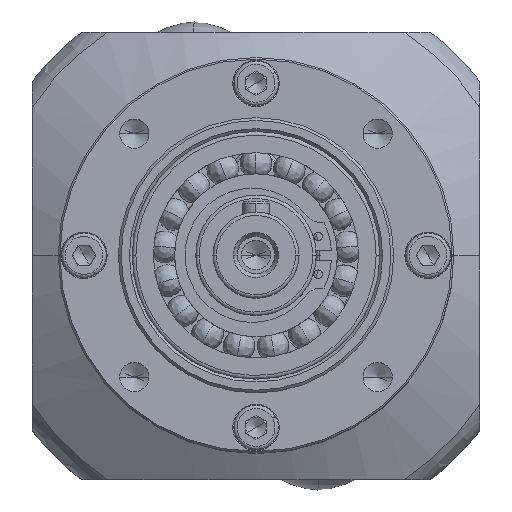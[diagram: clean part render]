
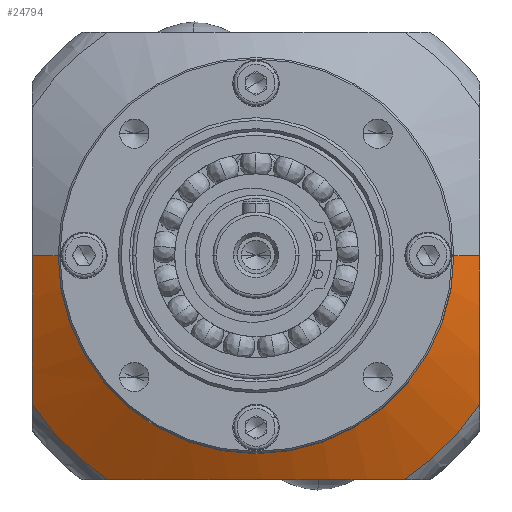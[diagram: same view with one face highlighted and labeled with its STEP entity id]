
A CAD part, top view. The second image highlights one B-rep face of the part: STEP entity #24794.
In plain terms, the highlighted conical face has half-angle 60 degrees and reference radius 57.5 mm.
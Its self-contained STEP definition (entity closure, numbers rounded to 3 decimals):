
#359 = CARTESIAN_POINT ( 'NONE',  ( 65., -3.71, 21.33 ) ) ;
#566 = ORIENTED_EDGE ( 'NONE', *, *, #20542, .T. ) ;
#686 = EDGE_CURVE ( 'NONE', #21934, #17545, #27739, .T. ) ;
#1526 = DIRECTION ( 'NONE',  ( 0., 0., -1. ) ) ;
#1555 = CIRCLE ( 'NONE', #16951, 57.5 ) ;
#2215 = VECTOR ( 'NONE', #15687, 1000. ) ;
#2669 = CARTESIAN_POINT ( 'NONE',  ( -65., 0., 21.33 ) ) ;
#2902 = LINE ( 'NONE', #4683, #2215 ) ;
#3723 = LINE ( 'NONE', #4104, #9686 ) ;
#4104 = CARTESIAN_POINT ( 'NONE',  ( -57.5, 0., 17. ) ) ;
#4253 = DIRECTION ( 'NONE',  ( -0.866, 0., 0.5 ) ) ;
#4683 = CARTESIAN_POINT ( 'NONE',  ( 57.5, 0., 17. ) ) ;
#5756 = CARTESIAN_POINT ( 'NONE',  ( 0., 0., 28.864 ) ) ;
#5785 = DIRECTION ( 'NONE',  ( 0., 0., 1. ) ) ;
#5788 = DIRECTION ( 'NONE',  ( 1., 0., 0. ) ) ;
#5909 = AXIS2_PLACEMENT_3D ( 'NONE', #25460, #27829, #9328 ) ;
#6301 = EDGE_CURVE ( 'NONE', #23832, #19343, #24675, .T. ) ;
#6421 = EDGE_CURVE ( 'NONE', #23832, #29212, #14859, .T. ) ;
#6669 = EDGE_CURVE ( 'NONE', #17545, #29212, #13495, .T. ) ;
#7549 = CARTESIAN_POINT ( 'NONE',  ( -57.5, 0., 17. ) ) ;
#7568 = ORIENTED_EDGE ( 'NONE', *, *, #6301, .F. ) ;
#7761 = CARTESIAN_POINT ( 'NONE',  ( 43.206, -65., 28.864 ) ) ;
#7790 = CARTESIAN_POINT ( 'NONE',  ( 36.174, -65., 26.617 ) ) ;
#7819 = ORIENTED_EDGE ( 'NONE', *, *, #6421, .T. ) ;
#7830 = CARTESIAN_POINT ( 'NONE',  ( 29.077, -65., 24.725 ) ) ;
#7933 = CONICAL_SURFACE ( 'NONE', #5909, 57.5, 1.047 ) ;
#7935 = CARTESIAN_POINT ( 'NONE',  ( 18.277, -65., 22.736 ) ) ;
#7959 = CARTESIAN_POINT ( 'NONE',  ( 14.652, -65., 22.215 ) ) ;
#8036 = CARTESIAN_POINT ( 'NONE',  ( 9.167, -65., 21.687 ) ) ;
#8041 = CARTESIAN_POINT ( 'NONE',  ( 7.332, -65., 21.553 ) ) ;
#8071 = CARTESIAN_POINT ( 'NONE',  ( -43.206, -65., 28.864 ) ) ;
#8102 = CARTESIAN_POINT ( 'NONE',  ( 4.566, -65., 21.419 ) ) ;
#8196 = CARTESIAN_POINT ( 'NONE',  ( 3.642, -65., 21.385 ) ) ;
#8228 = CARTESIAN_POINT ( 'NONE',  ( 1.79, -65., 21.341 ) ) ;
#8234 = CARTESIAN_POINT ( 'NONE',  ( 0.862, -65., 21.33 ) ) ;
#8259 = CARTESIAN_POINT ( 'NONE',  ( -3.763, -65., 21.332 ) ) ;
#8291 = CARTESIAN_POINT ( 'NONE',  ( -7.432, -65., 21.518 ) ) ;
#8332 = CARTESIAN_POINT ( 'NONE',  ( -14.715, -65., 22.224 ) ) ;
#8363 = CARTESIAN_POINT ( 'NONE',  ( -18.328, -65., 22.744 ) ) ;
#8391 = CARTESIAN_POINT ( 'NONE',  ( -29.097, -65., 24.731 ) ) ;
#8428 = CARTESIAN_POINT ( 'NONE',  ( -36.181, -65., 26.619 ) ) ;
#8456 = CARTESIAN_POINT ( 'NONE',  ( -43.206, -65., 28.864 ) ) ;
#9216 = B_SPLINE_CURVE_WITH_KNOTS ( 'NONE', 3,
 ( #12481, #11109, #12174, #12203, #12212, #12712, #359, #12005 ),
 .UNSPECIFIED., .F., .F.,
 ( 4, 2, 2, 4 ),
 ( 0., 0.022, 0.033, 0.044 ),
 .UNSPECIFIED. ) ;
#9328 = DIRECTION ( 'NONE',  ( 1., 0., 0. ) ) ;
#9686 = VECTOR ( 'NONE', #4253, 1000. ) ;
#10886 = ORIENTED_EDGE ( 'NONE', *, *, #22469, .F. ) ;
#10891 = CARTESIAN_POINT ( 'NONE',  ( 65., 0., 21.33 ) ) ;
#11109 = CARTESIAN_POINT ( 'NONE',  ( 65., -36.178, 26.618 ) ) ;
#11160 = CARTESIAN_POINT ( 'NONE',  ( 0., 0., 28.864 ) ) ;
#11163 = DIRECTION ( 'NONE',  ( 0., 0., 1. ) ) ;
#11197 = DIRECTION ( 'NONE',  ( 1., 0., 0. ) ) ;
#12005 = CARTESIAN_POINT ( 'NONE',  ( 65., 0., 21.33 ) ) ;
#12174 = CARTESIAN_POINT ( 'NONE',  ( 65., -29.088, 24.728 ) ) ;
#12203 = CARTESIAN_POINT ( 'NONE',  ( 65., -18.304, 22.74 ) ) ;
#12212 = CARTESIAN_POINT ( 'NONE',  ( 65., -14.685, 22.22 ) ) ;
#12366 = CARTESIAN_POINT ( 'NONE',  ( -65., -7.388, 21.515 ) ) ;
#12481 = CARTESIAN_POINT ( 'NONE',  ( 65., -43.206, 28.864 ) ) ;
#12701 = CARTESIAN_POINT ( 'NONE',  ( -65., -3.71, 21.33 ) ) ;
#12712 = CARTESIAN_POINT ( 'NONE',  ( 65., -7.388, 21.515 ) ) ;
#12789 = CARTESIAN_POINT ( 'NONE',  ( 65., -43.206, 28.864 ) ) ;
#12809 = CARTESIAN_POINT ( 'NONE',  ( -65., 0., 21.33 ) ) ;
#12823 = CARTESIAN_POINT ( 'NONE',  ( -65., -14.685, 22.22 ) ) ;
#12853 = CARTESIAN_POINT ( 'NONE',  ( -65., -18.304, 22.74 ) ) ;
#12860 = CARTESIAN_POINT ( 'NONE',  ( -65., -29.088, 24.728 ) ) ;
#12898 = CARTESIAN_POINT ( 'NONE',  ( -65., -36.178, 26.618 ) ) ;
#12925 = CARTESIAN_POINT ( 'NONE',  ( -65., -43.206, 28.864 ) ) ;
#13255 = AXIS2_PLACEMENT_3D ( 'NONE', #11160, #11163, #11197 ) ;
#13491 = ORIENTED_EDGE ( 'NONE', *, *, #6669, .F. ) ;
#13495 = CIRCLE ( 'NONE', #13255, 78.05 ) ;
#14582 = EDGE_CURVE ( 'NONE', #22027, #21934, #3723, .T. ) ;
#14606 = AXIS2_PLACEMENT_3D ( 'NONE', #5756, #5785, #5788 ) ;
#14797 = FACE_OUTER_BOUND ( 'NONE', #26761, .T. ) ;
#14859 = B_SPLINE_CURVE_WITH_KNOTS ( 'NONE', 3,
 ( #7761, #7790, #7830, #7935, #7959, #8036, #8041, #8102, #8196, #8228, #8234, #8259, #8291, #8332, #8363, #8391, #8428, #8456 ),
 .UNSPECIFIED., .F., .F.,
 ( 4, 2, 2, 2, 2, 2, 2, 2, 4 ),
 ( 0., 0.022, 0.033, 0.038, 0.041, 0.044, 0.055, 0.066, 0.088 ),
 .UNSPECIFIED. ) ;
#14893 = VERTEX_POINT ( 'NONE', #10891 ) ;
#15041 = CARTESIAN_POINT ( 'NONE',  ( 0., 0., 17. ) ) ;
#15687 = DIRECTION ( 'NONE',  ( 0.866, 0., 0.5 ) ) ;
#16951 = AXIS2_PLACEMENT_3D ( 'NONE', #15041, #1526, #17303 ) ;
#17303 = DIRECTION ( 'NONE',  ( 1., 0., 0. ) ) ;
#17545 = VERTEX_POINT ( 'NONE', #22159 ) ;
#17837 = ORIENTED_EDGE ( 'NONE', *, *, #14582, .F. ) ;
#19211 = ORIENTED_EDGE ( 'NONE', *, *, #26746, .F. ) ;
#19343 = VERTEX_POINT ( 'NONE', #12789 ) ;
#19800 = ORIENTED_EDGE ( 'NONE', *, *, #686, .F. ) ;
#19955 = VERTEX_POINT ( 'NONE', #22909 ) ;
#20542 = EDGE_CURVE ( 'NONE', #19955, #14893, #2902, .T. ) ;
#20874 = CARTESIAN_POINT ( 'NONE',  ( 43.206, -65., 28.864 ) ) ;
#21934 = VERTEX_POINT ( 'NONE', #2669 ) ;
#22027 = VERTEX_POINT ( 'NONE', #7549 ) ;
#22159 = CARTESIAN_POINT ( 'NONE',  ( -65., -43.206, 28.864 ) ) ;
#22469 = EDGE_CURVE ( 'NONE', #19343, #14893, #9216, .T. ) ;
#22909 = CARTESIAN_POINT ( 'NONE',  ( 57.5, 0., 17. ) ) ;
#23832 = VERTEX_POINT ( 'NONE', #20874 ) ;
#24675 = CIRCLE ( 'NONE', #14606, 78.05 ) ;
#24794 = ADVANCED_FACE ( 'NONE', ( #14797 ), #7933, .T. ) ;
#25460 = CARTESIAN_POINT ( 'NONE',  ( 0., 0., 17. ) ) ;
#26746 = EDGE_CURVE ( 'NONE', #19955, #22027, #1555, .T. ) ;
#26761 = EDGE_LOOP ( 'NONE', ( #17837, #19211, #566, #10886, #7568, #7819, #13491, #19800 ) ) ;
#27739 = B_SPLINE_CURVE_WITH_KNOTS ( 'NONE', 3,
 ( #12809, #12701, #12366, #12823, #12853, #12860, #12898, #12925 ),
 .UNSPECIFIED., .F., .F.,
 ( 4, 2, 2, 4 ),
 ( 0., 0.011, 0.022, 0.044 ),
 .UNSPECIFIED. ) ;
#27829 = DIRECTION ( 'NONE',  ( 0., 0., 1. ) ) ;
#29212 = VERTEX_POINT ( 'NONE', #8071 ) ;
